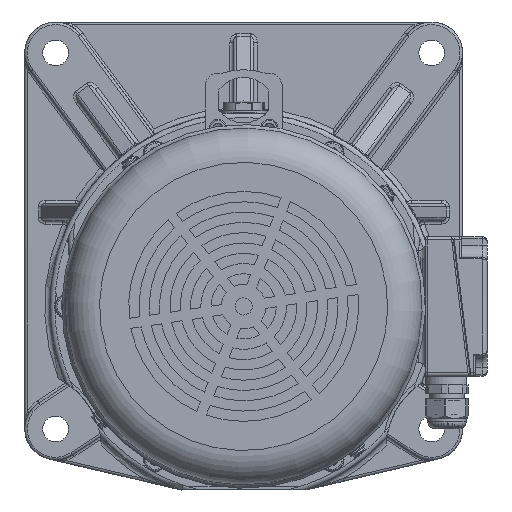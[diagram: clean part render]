
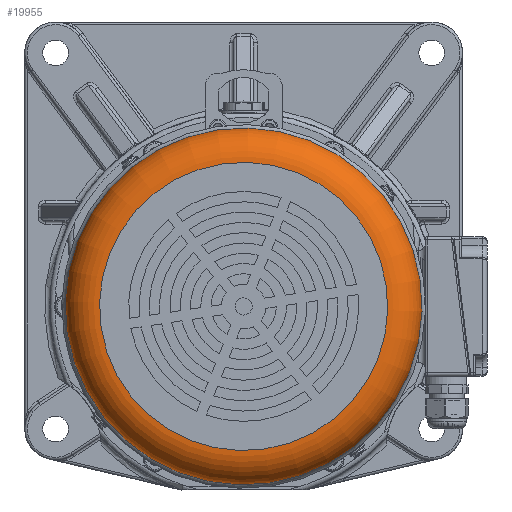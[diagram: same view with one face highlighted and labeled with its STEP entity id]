
A CAD part, left-side view. The second image highlights one B-rep face of the part: STEP entity #19955.
In plain terms, the highlighted toroidal (fillet/blend) face has major radius 84 mm and minor radius 20 mm.
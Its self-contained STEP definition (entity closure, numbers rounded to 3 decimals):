
#864=TOROIDAL_SURFACE('',#69185,84.,20.);
#19955=ADVANCED_FACE('',(#24258,#24259),#864,.T.);
#24258=FACE_BOUND('',#26978,.T.);
#24259=FACE_BOUND('',#26979,.T.);
#26978=EDGE_LOOP('',(#39408));
#26979=EDGE_LOOP('',(#39409));
#39408=ORIENTED_EDGE('',*,*,#59619,.T.);
#39409=ORIENTED_EDGE('',*,*,#59620,.F.);
#51629=VERTEX_POINT('',#113077);
#51630=VERTEX_POINT('',#113079);
#59619=EDGE_CURVE('',#51629,#51629,#64797,.T.);
#59620=EDGE_CURVE('',#51630,#51630,#64798,.T.);
#64797=CIRCLE('',#69183,84.);
#64798=CIRCLE('',#69184,104.);
#69183=AXIS2_PLACEMENT_3D('',#113076,#81214,#81215);
#69184=AXIS2_PLACEMENT_3D('',#113078,#81216,#81217);
#69185=AXIS2_PLACEMENT_3D('',#113080,#81218,#81219);
#81214=DIRECTION('',(1.,0.,0.));
#81215=DIRECTION('',(0.,-0.622,-0.783));
#81216=DIRECTION('',(1.,0.,0.));
#81217=DIRECTION('',(0.,-0.622,-0.783));
#81218=DIRECTION('',(1.,0.,0.));
#81219=DIRECTION('',(0.,-0.622,-0.783));
#113076=CARTESIAN_POINT('',(3736.516,3306.305,-1302.636));
#113077=CARTESIAN_POINT('',(3736.516,3254.048,-1368.402));
#113078=CARTESIAN_POINT('',(3756.516,3306.305,-1302.636));
#113079=CARTESIAN_POINT('',(3756.516,3241.606,-1384.061));
#113080=CARTESIAN_POINT('',(3756.516,3306.305,-1302.636));
